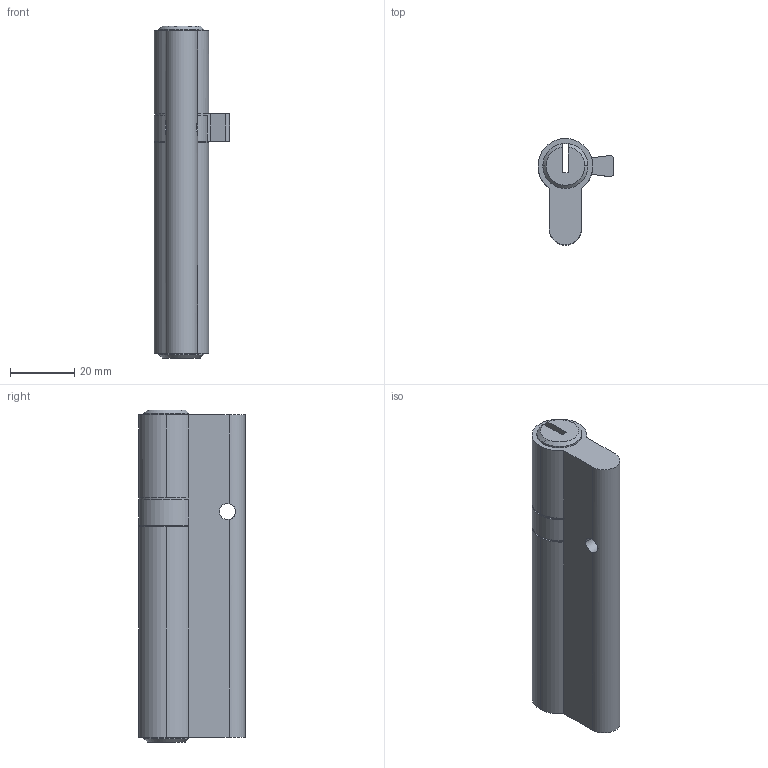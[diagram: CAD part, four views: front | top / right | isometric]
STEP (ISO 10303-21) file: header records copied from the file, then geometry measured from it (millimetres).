
FILE_DESCRIPTION (( 'STEP AP214' ), '1' );
FILE_NAME ('TPL-H-EU-523-L 29Oct2024.STEP', '2024-10-29T22:31:08', ( '' ), ( '' ), 'SwSTEP 2.0', 'SolidWorks 2023', '' );
FILE_SCHEMA (( 'AUTOMOTIVE_DESIGN' ));
Length unit declared in the file: millimetre
Products named in the file (1): TPL-H-EU-523-L 29Oct2024
Bounding box: 23.58 x 33 x 103 mm (x, y, z)
Volume: 37012.7 mm3; surface area: 11790.8 mm2
Topology: 1 solids, 1 shells, 51 faces, 141 edges, 88 vertices
Faces by surface type: cylinder 29, plane 16, cone 6
Entity records: 1740 total; most frequent: CARTESIAN_POINT 357, DIRECTION 307, ORIENTED_EDGE 282, EDGE_CURVE 141, AXIS2_PLACEMENT_3D 122, VERTEX_POINT 88, CIRCLE 70, LINE 63
